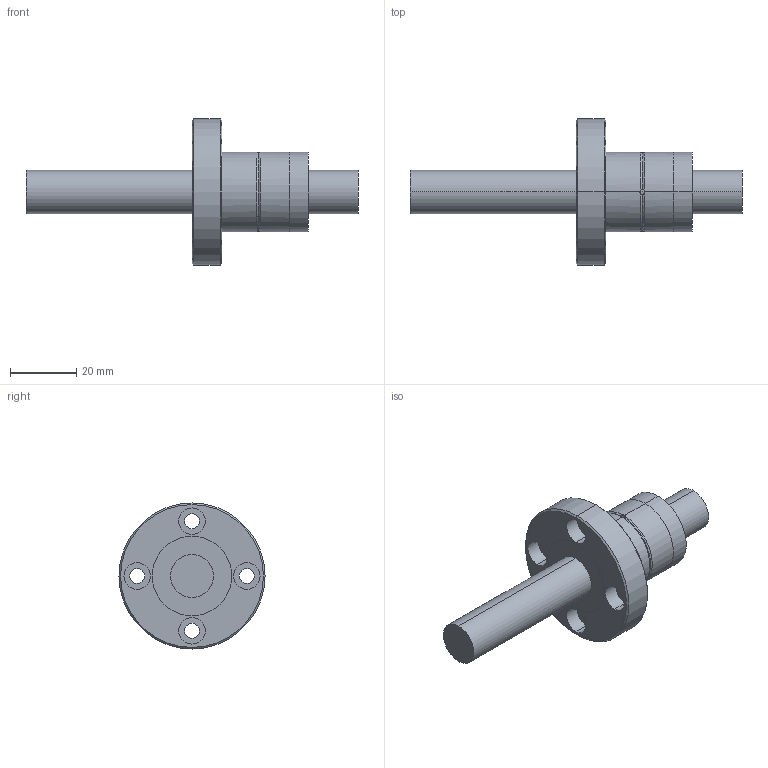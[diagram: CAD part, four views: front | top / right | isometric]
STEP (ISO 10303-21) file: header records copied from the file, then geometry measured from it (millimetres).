
FILE_DESCRIPTION (( 'STEP AP203' ), '1' );
FILE_NAME ('KLF013T4.STEP', '2023-08-17T07:24:12', ( '' ), ( '' ), 'SwSTEP 2.0', 'SolidWorks 2022', '' );
FILE_SCHEMA (( 'CONFIG_CONTROL_DESIGN' ));
Length unit declared in the file: millimetre
Products named in the file (5): 塑胶1^KLF013T4; KLF013T4; 主体^KLF013T4; 塑胶2^KLF013T4; 零件6^KLF013T4
Assembly tree (4 placements, depth 2):
  KLF013T4
    主体^KLF013T4
    塑胶1^KLF013T4
    塑胶2^KLF013T4
    零件6^KLF013T4
Bounding box: 100 x 44 x 44 mm (x, y, z)
Volume: 32819.4 mm3; surface area: 14416.4 mm2
Topology: 4 solids, 4 shells, 62 faces, 144 edges, 92 vertices
Faces by surface type: cylinder 40, plane 14, torus 4, cone 4
Entity records: 2445 total; most frequent: CARTESIAN_POINT 441, DIRECTION 340, ORIENTED_EDGE 288, AXIS2_PLACEMENT_3D 147, EDGE_CURVE 144, VERTEX_POINT 92, EDGE_LOOP 82, CIRCLE 78
